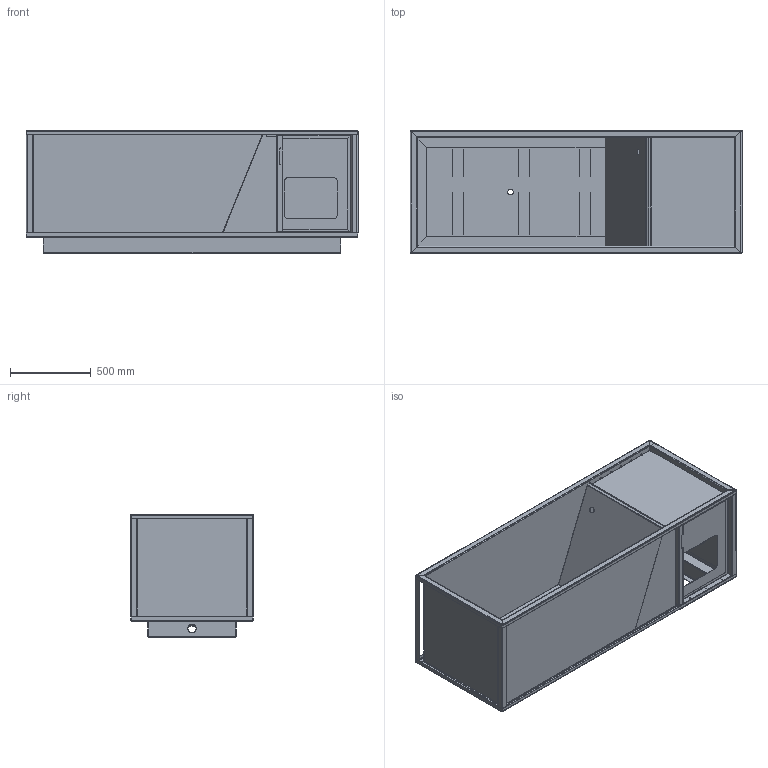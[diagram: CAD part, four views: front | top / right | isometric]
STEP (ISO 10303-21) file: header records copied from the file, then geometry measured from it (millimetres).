
FILE_DESCRIPTION (( 'STEP AP214' ), '1' );
FILE_NAME ('LC Cold Plunge A8.STEP', '2025-10-23T23:54:23', ( '' ), ( '' ), 'SwSTEP 2.0', 'SolidWorks 2025', '' );
FILE_SCHEMA (( 'AUTOMOTIVE_DESIGN' ));
Length unit declared in the file: inch
Products named in the file (20): Trim2 A8; control panel corner4 A8; Kick Short A8; Side Short A8; Rest panel A8; Corner2 A8; Corner4 A8; Stiffner A8; Acess panel A8; LC Cold Plunge A8; Base A8; Kick Long A8; control panel corner3 A8; Kick Short2 A8; Side Long3 A8; control panel corner1 A8; control panel corner2 A8; Corner A8; Side Long A8; Kick Long2 A8
Assembly tree (22 placements, depth 2):
  LC Cold Plunge A8
    Kick Long A8
    Kick Short A8
    Base A8
    Side Long A8
    Side Short A8
    Corner A8  x2
    Corner2 A8
    Trim2 A8
    Rest panel A8
    Acess panel A8
    Corner4 A8
    Stiffner A8  x3
    control panel corner1 A8
    control panel corner2 A8
    control panel corner4 A8
    control panel corner3 A8
    Kick Long2 A8
    Kick Short2 A8
    Side Long3 A8
Bounding box: 2057.4 x 762 x 762 mm (x, y, z)
Volume: 21827463 mm3; surface area: 15084367.6 mm2
Topology: 22 solids, 22 shells, 2093 faces, 5803 edges, 3752 vertices
Faces by surface type: cylinder 934, plane 647, bspline 512
Entity records: 77324 total; most frequent: CARTESIAN_POINT 25593, ORIENTED_EDGE 11390, DIRECTION 9516, EDGE_CURVE 5695, VERTEX_POINT 3688, AXIS2_PLACEMENT_3D 3292, VECTOR 2932, LINE 2932
